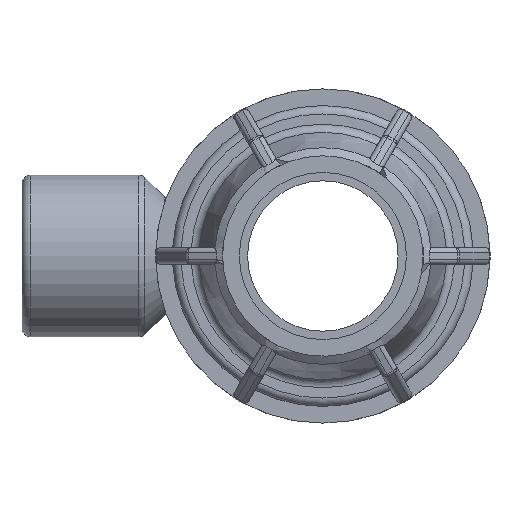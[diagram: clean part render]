
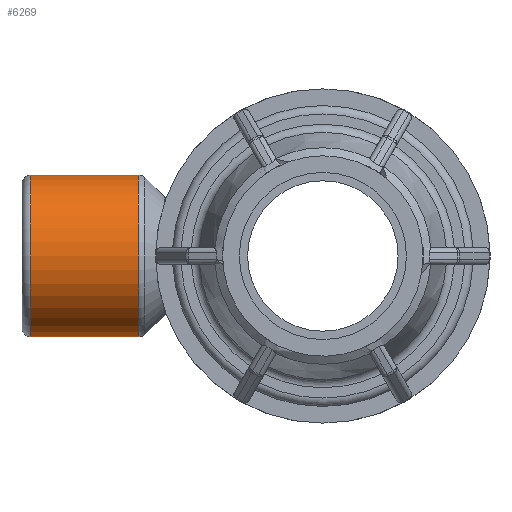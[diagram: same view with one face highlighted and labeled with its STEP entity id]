
A CAD part, left-side view. The second image highlights one B-rep face of the part: STEP entity #6269.
In plain terms, the highlighted cylindrical face has radius 12.11 mm (diameter 24.22 mm), a full revolution.
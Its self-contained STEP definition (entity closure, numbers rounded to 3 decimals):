
#1260=FACE_BOUND('',#2112,.T.);
#1670=FACE_OUTER_BOUND('',#2111,.T.);
#2111=EDGE_LOOP('',(#5728));
#2112=EDGE_LOOP('',(#5729));
#2465=CIRCLE('',#7017,12.11);
#2467=CIRCLE('',#7020,12.11);
#3004=VERTEX_POINT('',#11973);
#3006=VERTEX_POINT('',#11978);
#3915=EDGE_CURVE('',#3004,#3004,#2465,.T.);
#3917=EDGE_CURVE('',#3006,#3006,#2467,.T.);
#5728=ORIENTED_EDGE('',*,*,#3917,.F.);
#5729=ORIENTED_EDGE('',*,*,#3915,.F.);
#5864=CYLINDRICAL_SURFACE('',#7019,12.11);
#6269=ADVANCED_FACE('',(#1670,#1260),#5864,.T.);
#7017=AXIS2_PLACEMENT_3D('',#11974,#8871,#8872);
#7019=AXIS2_PLACEMENT_3D('',#11977,#8875,#8876);
#7020=AXIS2_PLACEMENT_3D('',#11979,#8877,#8878);
#8871=DIRECTION('center_axis',(0.,1.,0.));
#8872=DIRECTION('ref_axis',(1.,0.,0.));
#8875=DIRECTION('center_axis',(0.,1.,0.));
#8876=DIRECTION('ref_axis',(-1.,0.,0.));
#8877=DIRECTION('center_axis',(0.,-1.,0.));
#8878=DIRECTION('ref_axis',(1.,0.,0.));
#11973=CARTESIAN_POINT('',(-12.11,43.75,0.));
#11974=CARTESIAN_POINT('Origin',(0.,43.75,0.));
#11977=CARTESIAN_POINT('Origin',(0.,36.,0.));
#11978=CARTESIAN_POINT('',(-12.11,27.518,0.));
#11979=CARTESIAN_POINT('Origin',(0.,27.518,0.));
